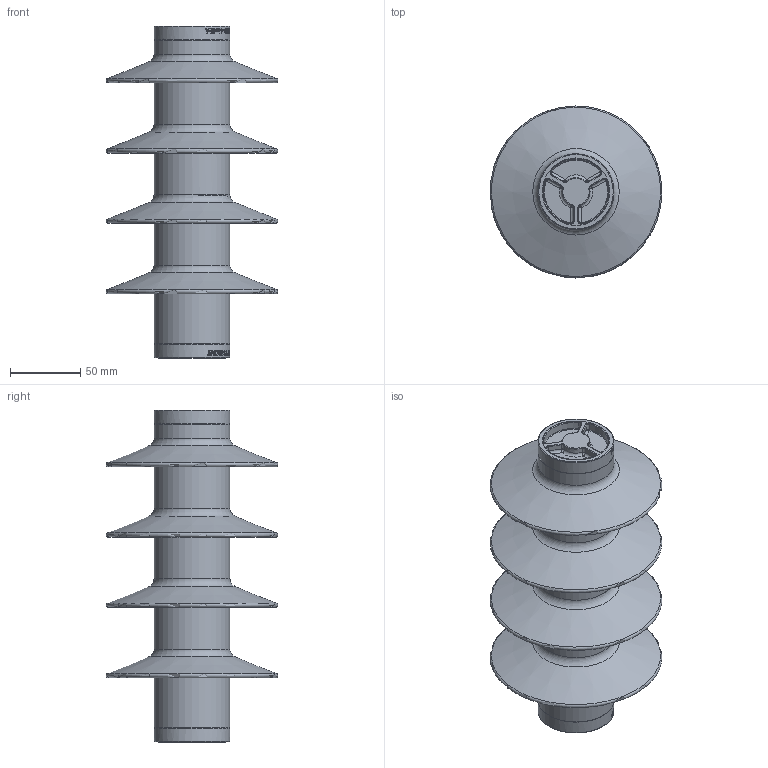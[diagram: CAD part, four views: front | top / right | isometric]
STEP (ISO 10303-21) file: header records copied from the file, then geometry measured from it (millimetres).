
FILE_DESCRIPTION(/* description */ (''),/* implementation_level */ '2;1');
FILE_NAME(/* name */ 'ASM13_ASM18.stp',/* time_stamp */ '2022-05-17T07:33:06+02:00',/* author */ (''),/* organization */ (''),/* preprocessor_version */ 'ST-DEVELOPER v18.101',/* originating_system */ 'SIEMENS PLM Software NX 2008',/* authorisation */ '');
FILE_SCHEMA (('AUTOMOTIVE_DESIGN { 1 0 10303 214 3 1 1 1 }'));
Length unit declared in the file: millimetre
Products named in the file (1): ASM07_ASM12_B_B_stp
Bounding box: 122 x 122 x 235.97 mm (x, y, z)
Volume: 744781.7 mm3; surface area: 123722.4 mm2
Topology: 1 solids, 1 shells, 694 faces, 1976 edges, 1356 vertices
Faces by surface type: plane 284, cylinder 229, torus 77, extrusion 54, cone 24, bspline 14, sphere 12
Full cylindrical faces by diameter (mm): 53.95 x2, 54 x5
Entity records: 32465 total; most frequent: CARTESIAN_POINT 12706, ORIENTED_EDGE 3782, DIRECTION 1978, EDGE_CURVE 1891, B_SPLINE_CURVE_WITH_KNOTS 1522, VERTEX_POINT 1346, AXIS2_PLACEMENT_3D 892, EDGE_LOOP 841
